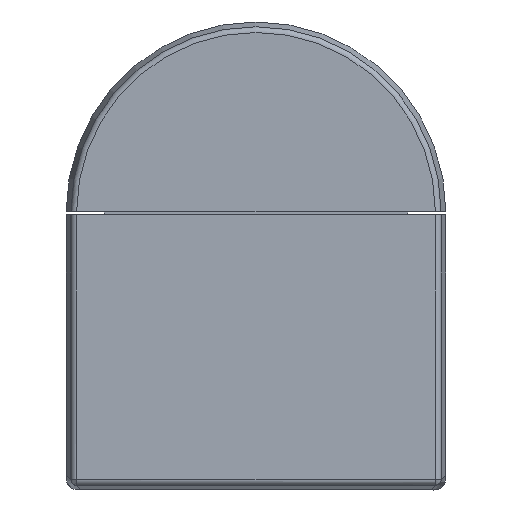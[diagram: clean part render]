
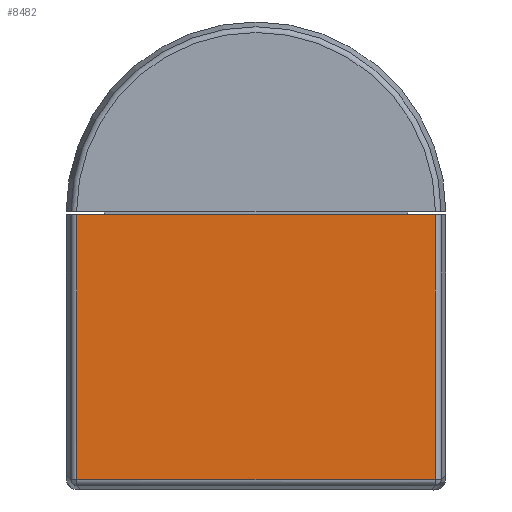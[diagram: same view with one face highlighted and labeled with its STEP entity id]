
A CAD part, front view. The second image highlights one B-rep face of the part: STEP entity #8482.
In plain terms, the highlighted planar face has unit normal (0, -1, 0).
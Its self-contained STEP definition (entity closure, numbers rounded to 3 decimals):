
#742=LINE('',#13473,#1701);
#743=LINE('',#13476,#1702);
#752=LINE('',#13651,#1711);
#767=LINE('',#13691,#1726);
#1701=VECTOR('',#10684,10.);
#1702=VECTOR('',#10687,10.);
#1711=VECTOR('',#10710,10.);
#1726=VECTOR('',#10745,10.);
#2308=PLANE('',#9099);
#2740=FACE_OUTER_BOUND('',#3214,.T.);
#3214=EDGE_LOOP('',(#7185,#7186,#7187,#7188));
#4085=VERTEX_POINT('',#13446);
#4088=VERTEX_POINT('',#13467);
#4089=VERTEX_POINT('',#13475);
#4100=VERTEX_POINT('',#13649);
#5152=EDGE_CURVE('',#4085,#4088,#742,.T.);
#5153=EDGE_CURVE('',#4089,#4085,#743,.T.);
#5171=EDGE_CURVE('',#4088,#4100,#752,.T.);
#5191=EDGE_CURVE('',#4100,#4089,#767,.T.);
#7185=ORIENTED_EDGE('',*,*,#5153,.T.);
#7186=ORIENTED_EDGE('',*,*,#5152,.T.);
#7187=ORIENTED_EDGE('',*,*,#5171,.T.);
#7188=ORIENTED_EDGE('',*,*,#5191,.T.);
#8482=ADVANCED_FACE('',(#2740),#2308,.F.);
#9099=AXIS2_PLACEMENT_3D('',#13690,#10743,#10744);
#10684=DIRECTION('',(1.,0.,0.));
#10687=DIRECTION('',(0.,0.,-1.));
#10710=DIRECTION('',(0.,0.,1.));
#10743=DIRECTION('center_axis',(0.,1.,0.));
#10744=DIRECTION('ref_axis',(1.,0.,0.));
#10745=DIRECTION('',(-1.,0.,0.));
#13446=CARTESIAN_POINT('',(-130.469,66.,-45.469));
#13467=CARTESIAN_POINT('',(-69.531,66.,-45.469));
#13473=CARTESIAN_POINT('',(-108.063,66.,-45.469));
#13475=CARTESIAN_POINT('',(-130.469,66.,-0.5));
#13476=CARTESIAN_POINT('',(-130.469,66.,-5.75));
#13649=CARTESIAN_POINT('',(-69.531,66.,-0.5));
#13651=CARTESIAN_POINT('',(-69.531,66.,-17.438));
#13690=CARTESIAN_POINT('Origin',(-100.,66.,-7.5));
#13691=CARTESIAN_POINT('',(-83.875,66.,-0.5));
